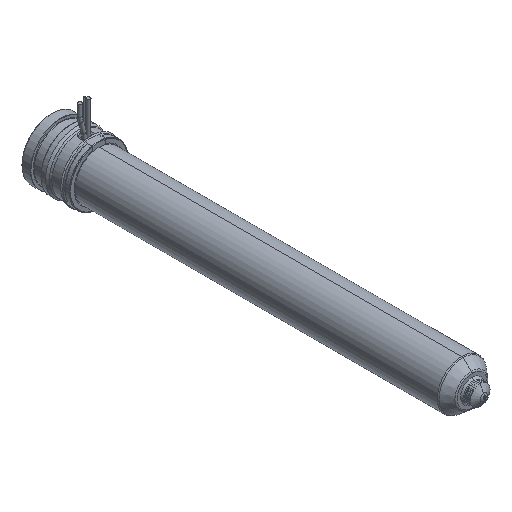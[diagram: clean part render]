
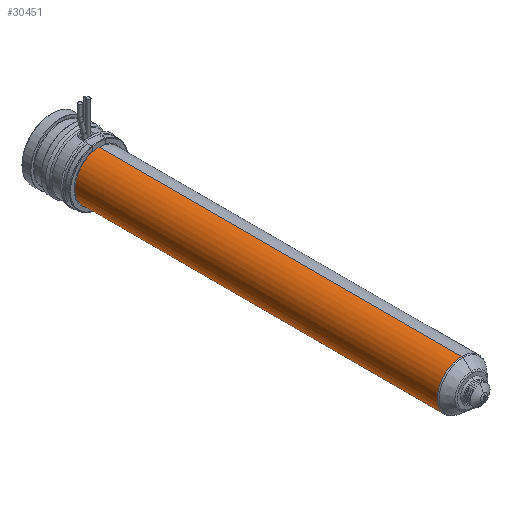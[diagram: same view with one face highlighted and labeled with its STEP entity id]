
A CAD part, isometric view. The second image highlights one B-rep face of the part: STEP entity #30451.
In plain terms, the highlighted cylindrical face has radius 12 mm (diameter 24 mm), a partial arc.
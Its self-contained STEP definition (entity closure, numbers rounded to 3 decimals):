
#29844=CARTESIAN_POINT('',(0.,-203.736,0.));
#29845=DIRECTION('',(0.,-1.,0.));
#29846=DIRECTION('',(0.,0.,1.));
#29847=AXIS2_PLACEMENT_3D('',#29844,#29845,#29846);
#29852=CARTESIAN_POINT('',(0.,-24.,0.));
#29853=DIRECTION('',(0.,1.,0.));
#29854=DIRECTION('',(0.,0.,-1.));
#29855=AXIS2_PLACEMENT_3D('',#29852,#29853,#29854);
#29860=DIRECTION('',(0.,1.,0.));
#29861=VECTOR('',#29860,179.736);
#29862=CARTESIAN_POINT('',(0.,-203.736,12.));
#29863=LINE('',#29862,#29861);
#29875=DIRECTION('',(0.,1.,0.));
#29876=VECTOR('',#29875,179.736);
#29877=CARTESIAN_POINT('',(0.,-203.736,-12.));
#29878=LINE('',#29877,#29876);
#30056=CARTESIAN_POINT('',(0.,-203.736,12.));
#30057=CARTESIAN_POINT('',(0.,-24.,12.));
#30058=VERTEX_POINT('',#30056);
#30059=VERTEX_POINT('',#30057);
#30060=CARTESIAN_POINT('',(0.,-203.736,-12.));
#30061=CARTESIAN_POINT('',(0.,-24.,-12.));
#30062=VERTEX_POINT('',#30060);
#30063=VERTEX_POINT('',#30061);
#30437=CARTESIAN_POINT('',(0.,-10.2,0.));
#30438=DIRECTION('',(0.,-1.,0.));
#30439=DIRECTION('',(0.,0.,1.));
#30440=AXIS2_PLACEMENT_3D('',#30437,#30438,#30439);
#30441=CYLINDRICAL_SURFACE('',#30440,12.);
#30443=ORIENTED_EDGE('',*,*,#30442,.F.);
#30444=ORIENTED_EDGE('',*,*,#30432,.T.);
#30446=ORIENTED_EDGE('',*,*,#30445,.T.);
#30448=ORIENTED_EDGE('',*,*,#30447,.T.);
#30449=EDGE_LOOP('',(#30443,#30444,#30446,#30448));
#30450=FACE_OUTER_BOUND('',#30449,.F.);
#30451=ADVANCED_FACE('',(#30450),#30441,.T.);
#29848=CIRCLE('',#29847,12.);
#29856=CIRCLE('',#29855,12.);
#30432=EDGE_CURVE('',#30058,#30062,#29848,.T.);
#30442=EDGE_CURVE('',#30058,#30059,#29863,.T.);
#30445=EDGE_CURVE('',#30062,#30063,#29878,.T.);
#30447=EDGE_CURVE('',#30063,#30059,#29856,.T.);
